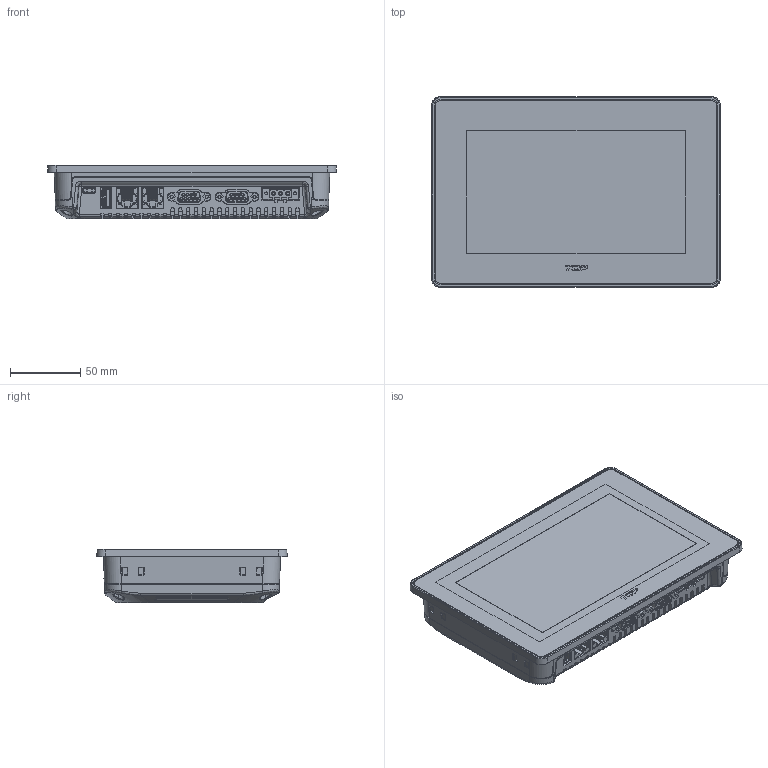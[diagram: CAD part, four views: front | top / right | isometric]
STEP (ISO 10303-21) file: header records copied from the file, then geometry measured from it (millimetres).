
FILE_DESCRIPTION((''),'2;1');
FILE_NAME('TOPRB0700WD','2026-05-27T17:46:07',('이형우'),(''),'CREO PARAMETRIC BY PTC INC, 2024153','CREO PARAMETRIC BY PTC INC, 2024153','');
FILE_SCHEMA(('CONFIG_CONTROL_DESIGN'));
Products named in the file (1): TOPRB0700WD
Bounding box: 205.4 x 135.4 x 38.3 mm (x, y, z)
Volume: 825454.6 mm3; surface area: 138380.7 mm2
Topology: 1 solids, 12 shells, 3603 faces, 10370 edges, 6827 vertices
Faces by surface type: plane 2462, cylinder 788, extrusion 118, bspline 100, cone 81, torus 37, sphere 17
Entity records: 127721 total; most frequent: CARTESIAN_POINT 34664, ORIENTED_EDGE 20712, DIRECTION 17190, EDGE_CURVE 10356, VECTOR 7834, LINE 7716, VERTEX_POINT 6827, AXIS2_PLACEMENT_3D 4678
